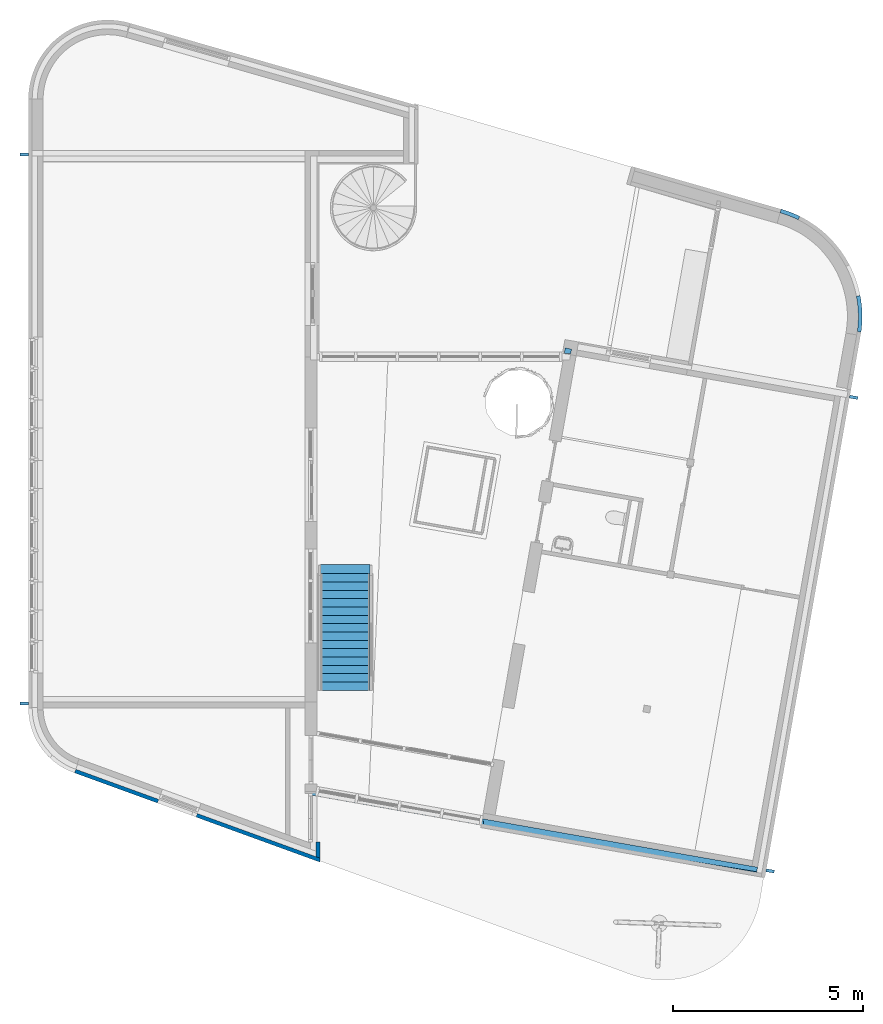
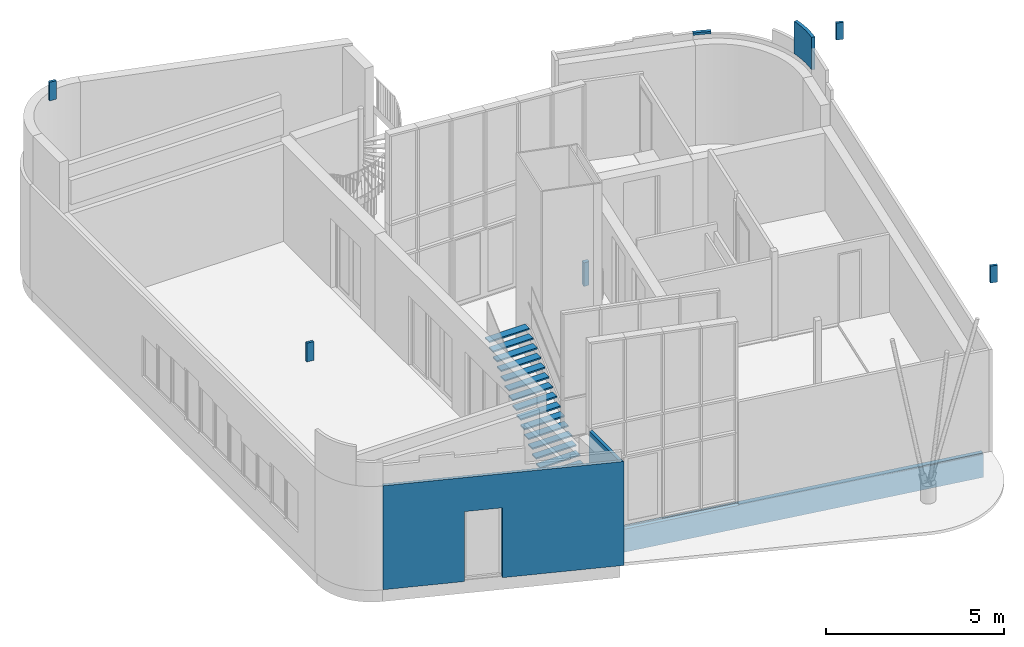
# One storey, part 13 of 21: 10 walls, 1 stair flight, 1 element without a shape of its own.
"""IFC2X3 building model written with IfcOpenShell, lengths in millimetres."""

from ifc_helpers import new_model, entity, si_unit, converted_unit, derived_unit, direction, frame, frame_2d, origin, place, context, subcontext, project, spatial, polyline, circle_curve, parameter, trimmed, segment, composite_curve, rectangle, outline, extrude, clip, halfspace, faceted_brep, material, layer, layer_set, layer_usage, type_object, element, aggregate, save


model = new_model("IFC2X3")

# Units and contexts
model_context = context("Model", 3, precision=0.01, world=origin(), true_north=direction((6.12303176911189e-17, 1.0)))
body_context = subcontext(model_context, "Body", "Model", "MODEL_VIEW")
ifc_project = project(units=[si_unit("LENGTHUNIT", "METRE", prefix="MILLI"), si_unit("AREAUNIT", "SQUARE_METRE"), si_unit("VOLUMEUNIT", "CUBIC_METRE"), converted_unit("PLANEANGLEUNIT", "DEGREE", entity("IfcRatioMeasure", 0.0174532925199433), si_unit("PLANEANGLEUNIT", "RADIAN"), dimensions=[0, 0, 0, 0, 0, 0, 0]), si_unit("MASSUNIT", "GRAM", prefix="KILO"), derived_unit("MASSDENSITYUNIT", [(si_unit("MASSUNIT", "GRAM", prefix="KILO"), 1), (si_unit("LENGTHUNIT", "METRE"), -3)]), si_unit("TIMEUNIT", "SECOND"), si_unit("FREQUENCYUNIT", "HERTZ"), si_unit("THERMODYNAMICTEMPERATUREUNIT", "DEGREE_CELSIUS"), derived_unit("THERMALTRANSMITTANCEUNIT", [(si_unit("MASSUNIT", "GRAM", prefix="KILO"), 1), (si_unit("THERMODYNAMICTEMPERATUREUNIT", "KELVIN"), -1), (si_unit("TIMEUNIT", "SECOND"), -3)]), derived_unit("VOLUMETRICFLOWRATEUNIT", [(si_unit("LENGTHUNIT", "METRE"), 3), (si_unit("TIMEUNIT", "SECOND"), -1)]), si_unit("ELECTRICCURRENTUNIT", "AMPERE"), si_unit("ELECTRICVOLTAGEUNIT", "VOLT"), si_unit("POWERUNIT", "WATT"), si_unit("FORCEUNIT", "NEWTON", prefix="KILO"), si_unit("ILLUMINANCEUNIT", "LUX"), si_unit("LUMINOUSFLUXUNIT", "LUMEN"), si_unit("LUMINOUSINTENSITYUNIT", "CANDELA"), derived_unit("USERDEFINED", [(si_unit("MASSUNIT", "GRAM", prefix="KILO"), -1), (si_unit("LENGTHUNIT", "METRE"), -2), (si_unit("TIMEUNIT", "SECOND"), 3), (si_unit("LUMINOUSFLUXUNIT", "LUMEN"), 1)]), derived_unit("LINEARVELOCITYUNIT", [(si_unit("LENGTHUNIT", "METRE"), 1), (si_unit("TIMEUNIT", "SECOND"), -1)]), si_unit("PRESSUREUNIT", "PASCAL"), derived_unit("USERDEFINED", [(si_unit("LENGTHUNIT", "METRE"), -2), (si_unit("MASSUNIT", "GRAM", prefix="KILO"), 1), (si_unit("TIMEUNIT", "SECOND"), -2)])], contexts=[model_context])

# Site, building, storey
site_placement = place(None, origin())
site = spatial("IfcSite", under=ifc_project, at=site_placement, Name="<Kadaster Gemeente>;<Kadaster nummer>;<Kadaster sectie>", CompositionType="ELEMENT")
building_placement = place(site_placement, origin())
building = spatial("IfcBuilding", under=site, at=building_placement, Name="JRCZ Middelburg", CompositionType="ELEMENT")
storey_placement = place(building_placement, origin())
storey = spatial("IfcBuildingStorey", under=building, at=storey_placement, Name="00 begane grond", CompositionType="ELEMENT", Elevation=0.0)

# Walls
ifc_material_1 = material(Name="geisoleerde cementvezelplaat")
ifc_layer_1 = layer(ifc_material_1, 20.0)
ifc_material_2 = material(Name="RBM_n7_isolatie_resol")
ifc_layer_2 = layer(ifc_material_2, 150.0)
ifc_layer_set_1 = layer_set([ifc_layer_1, ifc_layer_2], Name="Basic Wall:RBM_21_WA_170mm_geïsoleerde_kantplank")
wall_type_1 = type_object("IfcWallType", Name="Basic Wall:RBM_21_WA_170mm_geïsoleerde_kantplank", PredefinedType="STANDARD", material=ifc_layer_set_1)
wall_1_placement = place(storey_placement, frame((28967.2912969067, 5566.30762246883, -890.0), z_axis=(0.0, 0.0, 1.0), x_axis=(-0.984807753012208, 0.173648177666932, 0.0)))
element("IfcWall", 1, at=wall_1_placement, inside=storey, type_object=wall_type_1, Name="Basic Wall:RBM_21_WA_170mm_geïsoleerde_kantplank", ObjectType="Basic Wall:RBM_21_WA_170mm_geïsoleerde_kantplank", context=body_context, shape_type="Brep", body=[
    faceted_brep([(0.0, -85.0, 0.0), (11963.8085260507, -85.0, 0.0), (11963.8085260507, -85.0, 810.0), (0.0, -85.0, 810.0), (11933.8329393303, 85.0, 0.0), (0.0, 85.0, 0.0), (0.0, 85.0, 790.0), (3115.0, 85.0, 790.0), (3115.0, 85.0, 810.0), (7318.00691164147, 85.0, 810.0), (7318.00691164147, 85.0, 790.0), (11787.6115072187, 85.0, 790.0), (11787.6115072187, 85.0, 810.0), (11933.8329393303, 85.0, 810.0), (11933.8329393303, 85.0, 370.0), (11808.1639129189, -31.5584847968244, 810.0), (7317.91397739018, -27.8610349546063, 810.0), (0.0, 35.6087645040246, 810.0), (0.0, 35.6087645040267, 790.0), (11808.1639129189, -31.5584847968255, 790.0), (7317.91397739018, -27.8610349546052, 790.0)], [[[0, 1, 2, 3]], [[4, 5, 6, 7, 8, 9, 10, 11, 12, 13, 14]], [[1, 0, 5, 4]], [[3, 2, 13, 12, 15, 16, 9, 8, 17]], [[0, 3, 17, 18, 6, 5]], [[18, 7, 6]], [[11, 19, 15, 12]], [[19, 20, 16, 15]], [[20, 10, 9, 16]], [[7, 18, 17, 8]], [[2, 1, 4, 14, 13]], [[20, 19, 11, 10]]]),
])
ifc_layer_usage_1 = layer_usage(ifc_layer_set_1, "AXIS2", "NEGATIVE", 85.0)
wall_2_placement = place(storey_placement, frame((23970.8745783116, 19182.8632927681, -890.0), z_axis=(0.0, 0.0, 1.0), x_axis=(0.17364817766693, 0.984807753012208, 0.0)))
element("IfcWallStandardCase", 2, at=wall_2_placement, inside=storey, type_object=wall_type_1, material=ifc_layer_usage_1, Name="Basic Wall:RBM_21_WA_170mm_geïsoleerde_kantplank", ObjectType="Basic Wall:RBM_21_WA_170mm_geïsoleerde_kantplank", context=body_context, shape_type="SweptSolid", body=[
    extrude(outline(polyline([(142.92906461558, -85.0), (142.929064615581, 85.0), (0.0, 85.0), (29.9755867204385, -85.0), (142.92906461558, -85.0)])), origin(), (0.0, 0.0, 1.0), 810.000000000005),
])
ifc_material_3 = material(Name="hout_accoya_schubben")
ifc_layer_3 = layer(ifc_material_3, 30.0)
ifc_material_4 = material(Name="hout_vuren_regel")
ifc_layer_4 = layer(ifc_material_4, 35.0)
ifc_layer_5 = layer(ifc_material_4, 35.0)
ifc_layer_set_2 = layer_set([ifc_layer_3, ifc_layer_4, ifc_layer_5], Name="Basic Wall:RBM_21_WA_gevelbekleding op regelwerk_100mm")
wall_type_2 = type_object("IfcWallType", Name="Basic Wall:RBM_21_WA_gevelbekleding op regelwerk_100mm", PredefinedType="STANDARD", material=ifc_layer_set_2)
wall_3_placement = place(storey_placement, frame((17461.1010071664, 5831.2652998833, -70.0), z_axis=(0.0, 0.0, 1.0), x_axis=(-0.939692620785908, 0.342020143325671, 0.0)))
element("IfcWall", 3, at=wall_3_placement, inside=storey, type_object=wall_type_2, Name="Basic Wall:RBM_21_WA_gevelbekleding op regelwerk_100mm", ObjectType="Basic Wall:RBM_21_WA_gevelbekleding op regelwerk_100mm", context=body_context, shape_type="Brep", body=[
    faceted_brep([(36.3970234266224, -50.0, 0.0), (142.814800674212, -50.0, 0.0), (3471.99318715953, -50.0, 0.0), (3471.99318715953, -50.0, 2400.0), (4555.99318715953, -50.0, 2400.0), (4555.99318715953, -50.0, 0.0), (6878.92219927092, -50.0, 0.0), (6878.92219927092, -50.0, 3570.0), (142.814800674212, -50.0, 3570.0), (71.4074003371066, -50.0, 3570.0), (36.3970234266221, -50.0, 3570.0), (0.0, 50.0, 0.0), (0.0, 50.0, 3570.0), (71.4074003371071, 50.0, 3570.0), (6878.10291112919, 50.0, 3570.0), (6878.10291112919, 50.0, 0.0), (4555.99318715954, 50.0, 0.0), (4555.99318715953, 50.0, 2400.0), (3471.99318715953, 50.0, 2400.0), (3471.99318715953, 50.0, 0.0)], [[[0, 1, 2, 3, 4, 5, 6, 7, 8, 9, 10]], [[11, 12, 13, 14, 15, 16, 17, 18, 19]], [[2, 1, 0, 11, 19]], [[10, 9, 8, 7, 14, 13, 12]], [[3, 2, 19, 18]], [[4, 3, 18, 17]], [[5, 4, 17, 16]], [[6, 5, 16, 15]], [[0, 10, 12, 11]], [[7, 6, 15, 14]]]),
])
wall_4_placement = place(storey_placement, frame((17394.0, 7572.46662890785, -70.0), z_axis=(0.0, 0.0, 1.0), x_axis=(0.0, -1.0, 0.0)))
element("IfcWall", 4, at=wall_4_placement, inside=storey, type_object=wall_type_2, Name="Basic Wall:RBM_21_WA_gevelbekleding op regelwerk_100mm", ObjectType="Basic Wall:RBM_21_WA_gevelbekleding op regelwerk_100mm", context=body_context, shape_type="Brep", body=[
    faceted_brep([(1645.37115938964, -50.0, 0.0), (1645.37115938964, -50.0, 3570.0), (0.0, -50.0, 3570.0), (0.0, -50.0, 2418.95625160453), (1260.50446545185, -50.0, 2418.95625160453), (1260.50446545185, -50.0, 0.0), (1681.76818281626, 50.0, 0.0), (1260.50446545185, 50.0, 0.0), (1260.50446545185, 50.0, 2418.95625160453), (0.0, 50.0, 2418.95625160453), (0.0, 50.0, 3570.0), (1681.76818281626, 50.0, 3570.0)], [[[0, 1, 2, 3, 4, 5]], [[6, 7, 8, 9, 10, 11]], [[1, 0, 6, 11]], [[0, 5, 7, 6]], [[2, 1, 11, 10]], [[4, 3, 9, 8]], [[5, 4, 8, 7]], [[2, 10, 9, 3]]]),
])
ifc_layer_usage_2 = layer_usage(ifc_layer_set_2, "AXIS2", "POSITIVE", -50.0)
wall_5_placement = place(storey_placement, frame((29591.0858035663, 22948.7944272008, 3500.0)))
element("IfcWallStandardCase", 5, at=wall_5_placement, inside=storey, type_object=wall_type_2, material=ifc_layer_usage_2, Name="Basic Wall:RBM_21_WA_gevelbekleding op regelwerk_100mm", ObjectType="Basic Wall:RBM_21_WA_gevelbekleding op regelwerk_100mm", context=body_context, shape_type="SweptSolid", body=[
    extrude(outline(composite_curve([segment(trimmed(circle_curve(frame_2d((-799.011158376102, -2784.9314124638), x_axis=(1.0, 0.0)), 2947.28524714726), [parameter(63.7599554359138)], [parameter(73.9915421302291)], True, "PARAMETER"), True, "CONTINUOUS"), segment(polyline([(13.7889626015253, 48.0610498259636), (-13.7889626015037, -48.0610498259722)]), True, "CONTINUOUS"), segment(trimmed(circle_curve(frame_2d((-799.011158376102, -2784.9314124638), x_axis=(1.0, 0.0)), 2847.28524714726), [parameter(63.7599554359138)], [parameter(73.9915421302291)], True, "PARAMETER"), False, "CONTINUOUS"), segment(polyline([(459.86717501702, -231.060111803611), (504.080459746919, -141.36515401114)]), True, "CONTINUOUS")], self_intersect=False)), origin(), (0.0, 0.0, 1.0), 79.9900199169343),
])
ifc_layer_usage_3 = layer_usage(ifc_layer_set_2, "AXIS2", "POSITIVE", -50.0)
wall_6_placement = place(storey_placement, frame((31637.2673719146, 20710.8000779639, 3500.0)))
element("IfcWallStandardCase", 6, at=wall_6_placement, inside=storey, type_object=wall_type_2, material=ifc_layer_usage_3, Name="Basic Wall:RBM_21_WA_gevelbekleding op regelwerk_100mm", ObjectType="Basic Wall:RBM_21_WA_gevelbekleding op regelwerk_100mm", context=body_context, shape_type="SweptSolid", body=[
    extrude(outline(composite_curve([segment(trimmed(circle_curve(frame_2d((-2845.19272672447, -546.93706322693), x_axis=(1.0, 0.0)), 2947.28524714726), [parameter(352.052904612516)], [parameter(10.8813443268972)], True, "PARAMETER"), True, "CONTINUOUS"), segment(polyline([(49.1010115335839, 9.43878521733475), (-49.1010115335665, -9.43878521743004)]), True, "CONTINUOUS"), segment(trimmed(circle_curve(frame_2d((-2845.19272672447, -546.93706322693), x_axis=(1.0, 0.0)), 2847.28524714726), [parameter(352.088647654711)], [parameter(10.8813443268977)], True, "PARAMETER"), False, "CONTINUOUS"), segment(polyline([(-25.0073394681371, -938.839678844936), (73.7872450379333, -954.424796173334)]), True, "CONTINUOUS")], self_intersect=False)), origin(), (0.0, 0.0, 1.0), 1116.4072854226),
])
ifc_material_5 = material(Name="steenachtig_ntb_plaat_antraciet")
ifc_layer_6 = layer(ifc_material_5, 8.0)
ifc_layer_7 = layer(ifc_material_4, 35.0)
ifc_layer_8 = layer(ifc_material_4, 35.0)
ifc_layer_set_3 = layer_set([ifc_layer_6, ifc_layer_7, ifc_layer_8], Name="Basic Wall:RBM_21_WA_dakrand_beplating_rockpanel")
ifc_layer_usage_4 = layer_usage(ifc_layer_set_3, "AXIS2", "NEGATIVE", 39.0)
wall_type_3 = type_object("IfcWallType", Name="Basic Wall:RBM_21_WA_dakrand_beplating_rockpanel", PredefinedType="STANDARD", material=ifc_layer_set_3)
wall_7_placement = place(storey_placement, frame((29421.2261995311, 5532.97627579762, 5645.1392716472), z_axis=(0.0, 0.0, 1.0), x_axis=(-0.984807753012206, 0.173648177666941, 0.0)))
element("IfcWallStandardCase", 7, at=wall_7_placement, inside=storey, type_object=wall_type_3, material=ifc_layer_usage_4, Name="Basic Wall:RBM_21_WA_dakrand_beplating_rockpanel", ObjectType="Basic Wall:RBM_21_WA_dakrand_beplating_rockpanel", context=body_context, shape_type="Clipping", body=[
    clip(clip(extrude(rectangle(XDim=214.826539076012, YDim=78.0000000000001, at=frame_2d((107.413269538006, 3.76587649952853e-13), x_axis=(-1.0, 0.0))), origin(), (0.0, 0.0, 1.0), 597.741033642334), halfspace(frame((0.0, -39.0, 581.628976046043), z_axis=(-0.074790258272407, 0.0, 0.9971992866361), x_axis=(0.0, 1.0, 0.0)), False)), halfspace(frame((214.826539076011, -39.0, 16.1119904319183), z_axis=(0.0747899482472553, 0.0, -0.997199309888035), x_axis=(0.0, 1.0, 0.0)), False)),
])
ifc_layer_usage_5 = layer_usage(ifc_layer_set_3, "AXIS2", "POSITIVE", -39.0)
wall_8_placement = place(storey_placement, frame((31625.5328001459, 18017.8761338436, 5644.92641252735), z_axis=(0.0, 0.0, 1.0), x_axis=(-0.984807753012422, 0.17364817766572, 0.0)))
element("IfcWallStandardCase", 8, at=wall_8_placement, inside=storey, type_object=wall_type_3, material=ifc_layer_usage_5, Name="Basic Wall:RBM_21_WA_dakrand_beplating_rockpanel", ObjectType="Basic Wall:RBM_21_WA_dakrand_beplating_rockpanel", context=body_context, shape_type="Clipping", body=[
    clip(clip(extrude(rectangle(XDim=217.664660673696, YDim=77.9999999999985, at=frame_2d((108.832330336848, -3.41060513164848e-13), x_axis=(-1.0, 0.0))), origin(), (0.0, 0.0, 1.0), 597.953892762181), halfspace(frame((217.664660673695, -39.0, 16.3248495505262), z_axis=(0.0747899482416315, 0.0, -0.997199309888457), x_axis=(0.0, 1.0, 0.0)), False)), halfspace(frame((0.0, -39.0, 581.628975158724), z_axis=(-0.0747902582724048, 0.0, 0.9971992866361), x_axis=(0.0, 1.0, 0.0)), False)),
])
ifc_layer_usage_6 = layer_usage(ifc_layer_set_3, "AXIS2", "NEGATIVE", 39.0)
wall_9_placement = place(storey_placement, frame((9540.0, 24439.0, 7342.89797168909)))
element("IfcWallStandardCase", 9, at=wall_9_placement, inside=storey, type_object=wall_type_3, material=ifc_layer_usage_6, Name="Basic Wall:RBM_21_WA_dakrand_beplating_rockpanel", ObjectType="Basic Wall:RBM_21_WA_dakrand_beplating_rockpanel", context=body_context, shape_type="Clipping", body=[
    clip(clip(extrude(rectangle(XDim=222.000000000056, YDim=77.9999999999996, at=frame_2d((111.000000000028, 0.0), x_axis=(-1.0, 0.0))), origin(), (0.0, 0.0, 1.0), 653.87848654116), halfspace(frame((0.0, -39.0, 653.878486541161), z_axis=(0.0729008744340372, 0.0, 0.997339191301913), x_axis=(0.0, 1.0, 0.0)), False)), halfspace(frame((222.0, -39.0, 0.0), z_axis=(-0.0736599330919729, 0.0, -0.997283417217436), x_axis=(0.0, 1.0, 0.0)), False)),
])
ifc_layer_usage_7 = layer_usage(ifc_layer_set_3, "AXIS2", "NEGATIVE", 39.0)
wall_10_placement = place(storey_placement, frame((9762.0, 9961.0, 7155.35793980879), z_axis=(0.0, 0.0, 1.0), x_axis=(-1.0, 0.0, 0.0)))
element("IfcWallStandardCase", 10, at=wall_10_placement, inside=storey, type_object=wall_type_3, material=ifc_layer_usage_7, Name="Basic Wall:RBM_21_WA_dakrand_beplating_rockpanel", ObjectType="Basic Wall:RBM_21_WA_dakrand_beplating_rockpanel", context=body_context, shape_type="Clipping", body=[
    clip(clip(extrude(rectangle(XDim=222.000000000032, YDim=77.9999999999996, at=frame_2d((111.000000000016, 0.0), x_axis=(-1.0, 0.0))), origin(), (0.0, 0.0, 1.0), 662.459118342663), halfspace(frame((222.0, -39.0, 16.3970490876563), z_axis=(0.0736599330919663, 0.0, -0.997283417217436), x_axis=(0.0, 1.0, 0.0)), False)), halfspace(frame((0.0, -39.0, 646.062069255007), z_axis=(-0.0736599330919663, 0.0, 0.997283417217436), x_axis=(0.0, 1.0, 0.0)), False)),
])

# Stair, stair flight
stair_placement = place(storey_placement, origin())
stair = element("IfcStair", 11, at=stair_placement, inside=storey, Name="Assembled Stair:Stair", ObjectType="Assembled Stair:RBM_ST_houten trap", ShapeType="NOTDEFINED")
ifc_material_6 = material(Name="traphout")
stair_flight_placement = place(stair_placement, origin())
stair_flight = element("IfcStairFlight", 12, at=stair_flight_placement, material=ifc_material_6, Name="Assembled Stair:Stair:1742392 Run 1", ObjectType="Non-Monolithic Run:RBM_ST_samengestelde houten trede", NumberOfRiser=16, NumberOfTreads=15, RiserHeight=0.656167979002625, TreadLength=0.721784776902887, context=body_context, shape_type="SweptSolid", body=[
    extrude(rectangle(XDim=245.000000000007, YDim=1300.0, at=frame_2d((-3.24718030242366e-12, 0.0), x_axis=(1.0, 0.0))), frame((18118.0, 10433.1069519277, 150.0), z_axis=(0.0, 0.0, 1.0), x_axis=(0.0, -1.0, 0.0)), (0.0, 0.0, 1.0), 50.0),
    extrude(rectangle(XDim=244.999999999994, YDim=1300.0, at=frame_2d((3.24718030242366e-12, 1.08002495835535e-12), x_axis=(1.0, 0.0))), frame((18118.0, 10653.1069519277, 350.0), z_axis=(0.0, 0.0, 1.0), x_axis=(0.0, -1.0, 0.0)), (0.0, 0.0, 1.0), 50.0),
    extrude(rectangle(XDim=244.999999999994, YDim=1300.0, at=frame_2d((1.08713038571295e-12, 1.08002495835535e-12), x_axis=(1.0, 0.0))), frame((18118.0, 10873.1069519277, 550.0), z_axis=(0.0, 0.0, 1.0), x_axis=(0.0, -1.0, 0.0)), (0.0, 0.0, 1.0), 50.0),
    extrude(rectangle(XDim=244.999999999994, YDim=1300.0, at=frame_2d((3.24718030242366e-12, 1.08002495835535e-12), x_axis=(1.0, 0.0))), frame((18118.0, 11093.1069519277, 750.0), z_axis=(0.0, 0.0, 1.0), x_axis=(0.0, -1.0, 0.0)), (0.0, 0.0, 1.0), 50.0),
    extrude(rectangle(XDim=244.999999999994, YDim=1300.0, at=frame_2d((3.24718030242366e-12, 1.08002495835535e-12), x_axis=(1.0, 0.0))), frame((18118.0, 11313.1069519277, 950.0), z_axis=(0.0, 0.0, 1.0), x_axis=(0.0, -1.0, 0.0)), (0.0, 0.0, 1.0), 50.0),
    extrude(rectangle(XDim=244.999999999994, YDim=1300.0, at=frame_2d((3.24718030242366e-12, 1.08002495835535e-12), x_axis=(1.0, 0.0))), frame((18118.0, 11533.1069519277, 1150.0), z_axis=(0.0, 0.0, 1.0), x_axis=(0.0, -1.0, 0.0)), (0.0, 0.0, 1.0), 50.0),
    extrude(rectangle(XDim=244.999999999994, YDim=1300.0, at=frame_2d((1.08713038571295e-12, 1.08002495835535e-12), x_axis=(1.0, 0.0))), frame((18118.0, 11753.1069519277, 1350.0), z_axis=(0.0, 0.0, 1.0), x_axis=(0.0, -1.0, 0.0)), (0.0, 0.0, 1.0), 50.0),
    extrude(rectangle(XDim=244.999999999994, YDim=1300.0, at=frame_2d((1.08713038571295e-12, -1.08002495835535e-12), x_axis=(1.0, 0.0))), frame((18118.0, 11973.1069519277, 1550.0), z_axis=(0.0, 0.0, 1.0), x_axis=(0.0, -1.0, 0.0)), (0.0, 0.0, 1.0), 50.0),
    extrude(rectangle(XDim=244.999999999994, YDim=1300.0, at=frame_2d((3.24718030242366e-12, -1.08002495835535e-12), x_axis=(1.0, 0.0))), frame((18118.0, 12193.1069519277, 1750.0), z_axis=(0.0, 0.0, 1.0), x_axis=(0.0, -1.0, 0.0)), (0.0, 0.0, 1.0), 50.0),
    extrude(rectangle(XDim=244.999999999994, YDim=1300.0, at=frame_2d((3.24718030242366e-12, -1.08002495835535e-12), x_axis=(1.0, 0.0))), frame((18118.0, 12413.1069519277, 1950.0), z_axis=(0.0, 0.0, 1.0), x_axis=(0.0, -1.0, 0.0)), (0.0, 0.0, 1.0), 50.0),
    extrude(rectangle(XDim=244.999999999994, YDim=1300.0, at=frame_2d((3.24718030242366e-12, -1.08002495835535e-12), x_axis=(1.0, 0.0))), frame((18118.0, 12633.1069519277, 2150.0), z_axis=(0.0, 0.0, 1.0), x_axis=(0.0, -1.0, 0.0)), (0.0, 0.0, 1.0), 50.0),
    extrude(rectangle(XDim=244.999999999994, YDim=1300.0, at=frame_2d((1.08713038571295e-12, -1.08002495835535e-12), x_axis=(1.0, 0.0))), frame((18118.0, 12853.1069519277, 2350.0), z_axis=(0.0, 0.0, 1.0), x_axis=(0.0, -1.0, 0.0)), (0.0, 0.0, 1.0), 50.0),
    extrude(rectangle(XDim=244.999999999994, YDim=1300.0, at=frame_2d((3.24718030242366e-12, 1.08002495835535e-12), x_axis=(1.0, 0.0))), frame((18118.0, 13073.1069519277, 2550.0), z_axis=(0.0, 0.0, 1.0), x_axis=(0.0, -1.0, 0.0)), (0.0, 0.0, 1.0), 50.0),
    extrude(rectangle(XDim=244.999999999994, YDim=1300.0, at=frame_2d((3.24718030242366e-12, 1.08002495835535e-12), x_axis=(1.0, 0.0))), frame((18118.0, 13293.1069519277, 2750.0), z_axis=(0.0, 0.0, 1.0), x_axis=(0.0, -1.0, 0.0)), (0.0, 0.0, 1.0), 50.0),
    extrude(rectangle(XDim=244.999999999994, YDim=1300.0, at=frame_2d((3.24718030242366e-12, 1.08002495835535e-12), x_axis=(1.0, 0.0))), frame((18118.0, 13513.1069519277, 2950.0), z_axis=(0.0, 0.0, 1.0), x_axis=(0.0, -1.0, 0.0)), (0.0, 0.0, 1.0), 50.0),
])
aggregate(stair, [stair_flight])

save(model, "model.ifc")
